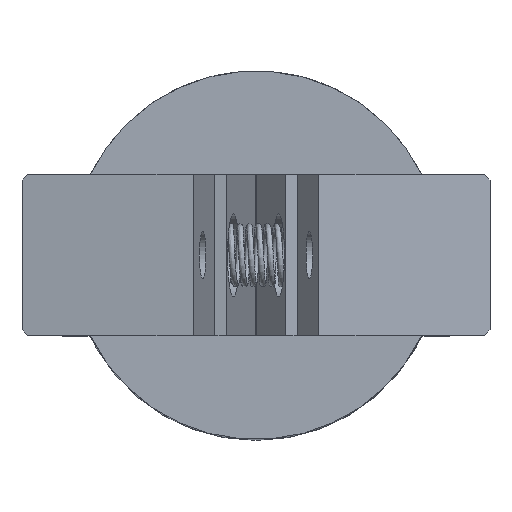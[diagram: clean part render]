
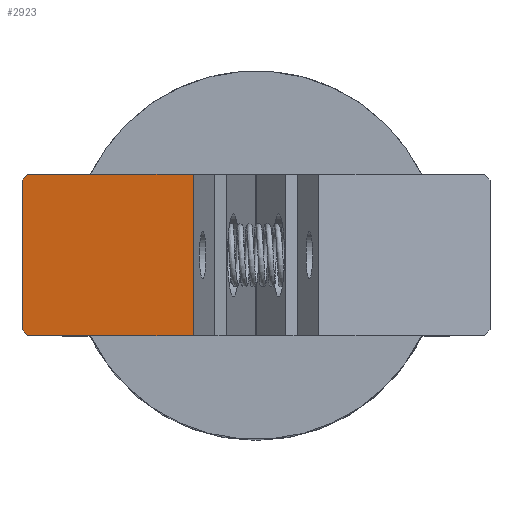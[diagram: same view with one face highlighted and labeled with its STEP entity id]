
A CAD part, top view. The second image highlights one B-rep face of the part: STEP entity #2923.
In plain terms, the highlighted planar face has unit normal (-0.139, 0, 0.99).
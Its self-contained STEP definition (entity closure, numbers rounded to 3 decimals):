
#30 = VECTOR ( 'NONE', #2801, 1000. ) ;
#50 = ORIENTED_EDGE ( 'NONE', *, *, #121, .T. ) ;
#121 = EDGE_CURVE ( 'NONE', #2583, #1098, #3282, .T. ) ;
#124 = VECTOR ( 'NONE', #2370, 1000. ) ;
#176 = PLANE ( 'NONE',  #567 ) ;
#261 = LINE ( 'NONE', #3370, #1106 ) ;
#264 = LINE ( 'NONE', #1351, #3654 ) ;
#294 = VERTEX_POINT ( 'NONE', #2094 ) ;
#433 = CARTESIAN_POINT ( 'NONE',  ( -10.158, 3.5, 29.415 ) ) ;
#567 = AXIS2_PLACEMENT_3D ( 'NONE', #1838, #2769, #2988 ) ;
#627 = ORIENTED_EDGE ( 'NONE', *, *, #2070, .F. ) ;
#681 = CARTESIAN_POINT ( 'NONE',  ( -10.158, -3.25, 29.415 ) ) ;
#1098 = VERTEX_POINT ( 'NONE', #3677 ) ;
#1106 = VECTOR ( 'NONE', #2771, 1000. ) ;
#1148 = VERTEX_POINT ( 'NONE', #1455 ) ;
#1267 = VECTOR ( 'NONE', #1902, 1000. ) ;
#1289 = VERTEX_POINT ( 'NONE', #2938 ) ;
#1345 = CARTESIAN_POINT ( 'NONE',  ( -10.158, 3.5, 29.415 ) ) ;
#1351 = CARTESIAN_POINT ( 'NONE',  ( -2.731, 3.5, 30.459 ) ) ;
#1364 = LINE ( 'NONE', #1345, #1267 ) ;
#1455 = CARTESIAN_POINT ( 'NONE',  ( -2.731, -3.5, 30.459 ) ) ;
#1583 = EDGE_CURVE ( 'NONE', #1098, #1148, #2581, .T. ) ;
#1838 = CARTESIAN_POINT ( 'NONE',  ( -10.158, 3.5, 29.415 ) ) ;
#1902 = DIRECTION ( 'NONE',  ( 0.99, 0., 0.139 ) ) ;
#1927 = EDGE_CURVE ( 'NONE', #1289, #2583, #2452, .T. ) ;
#2063 = VECTOR ( 'NONE', #2395, 1000. ) ;
#2070 = EDGE_CURVE ( 'NONE', #294, #1148, #264, .T. ) ;
#2094 = CARTESIAN_POINT ( 'NONE',  ( -2.731, 3.5, 30.459 ) ) ;
#2267 = VERTEX_POINT ( 'NONE', #3703 ) ;
#2370 = DIRECTION ( 'NONE',  ( 0.7, -0.707, 0.098 ) ) ;
#2386 = ORIENTED_EDGE ( 'NONE', *, *, #1583, .T. ) ;
#2395 = DIRECTION ( 'NONE',  ( 0., -1., 0. ) ) ;
#2452 = LINE ( 'NONE', #433, #2063 ) ;
#2581 = LINE ( 'NONE', #3096, #30 ) ;
#2583 = VERTEX_POINT ( 'NONE', #3428 ) ;
#2748 = FACE_OUTER_BOUND ( 'NONE', #2956, .T. ) ;
#2769 = DIRECTION ( 'NONE',  ( 0.139, 0., -0.99 ) ) ;
#2771 = DIRECTION ( 'NONE',  ( -0.7, -0.707, -0.098 ) ) ;
#2801 = DIRECTION ( 'NONE',  ( 0.99, 0., 0.139 ) ) ;
#2923 = ADVANCED_FACE ( 'NONE', ( #2748 ), #176, .F. ) ;
#2938 = CARTESIAN_POINT ( 'NONE',  ( -10.158, 3.25, 29.415 ) ) ;
#2956 = EDGE_LOOP ( 'NONE', ( #3433, #50, #2386, #627, #3610, #3734 ) ) ;
#2988 = DIRECTION ( 'NONE',  ( -0.99, 0., -0.139 ) ) ;
#3096 = CARTESIAN_POINT ( 'NONE',  ( -10.158, -3.5, 29.415 ) ) ;
#3137 = DIRECTION ( 'NONE',  ( 0., -1., 0. ) ) ;
#3282 = LINE ( 'NONE', #681, #124 ) ;
#3370 = CARTESIAN_POINT ( 'NONE',  ( -9.911, 3.5, 29.45 ) ) ;
#3428 = CARTESIAN_POINT ( 'NONE',  ( -10.158, -3.25, 29.415 ) ) ;
#3433 = ORIENTED_EDGE ( 'NONE', *, *, #1927, .T. ) ;
#3513 = EDGE_CURVE ( 'NONE', #2267, #294, #1364, .T. ) ;
#3519 = EDGE_CURVE ( 'NONE', #2267, #1289, #261, .T. ) ;
#3610 = ORIENTED_EDGE ( 'NONE', *, *, #3513, .F. ) ;
#3654 = VECTOR ( 'NONE', #3137, 1000. ) ;
#3677 = CARTESIAN_POINT ( 'NONE',  ( -9.911, -3.5, 29.45 ) ) ;
#3703 = CARTESIAN_POINT ( 'NONE',  ( -9.911, 3.5, 29.45 ) ) ;
#3734 = ORIENTED_EDGE ( 'NONE', *, *, #3519, .T. ) ;
